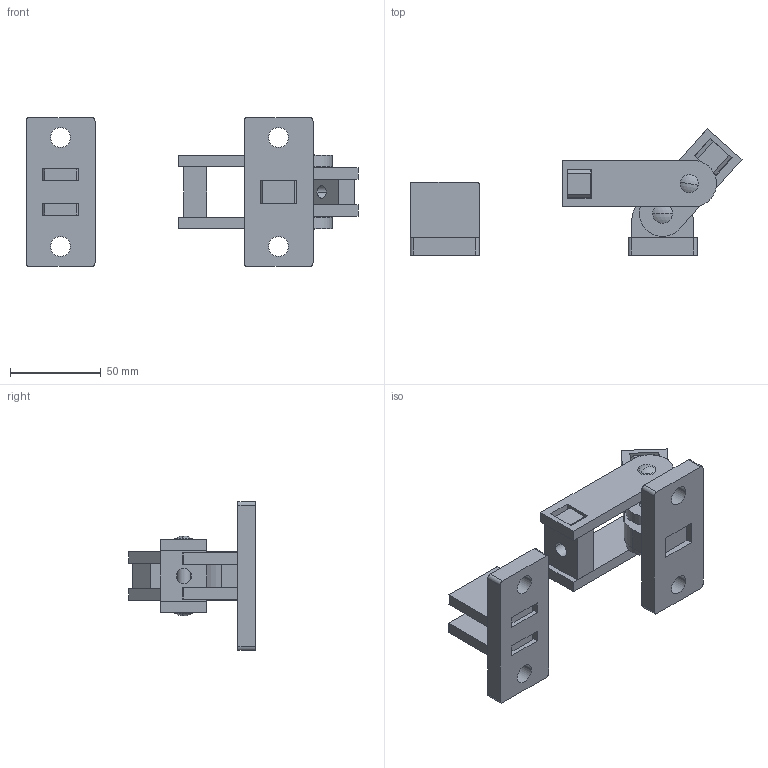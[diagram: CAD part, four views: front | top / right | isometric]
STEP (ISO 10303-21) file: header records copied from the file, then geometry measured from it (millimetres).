
FILE_DESCRIPTION (( 'STEP AP203' ), '1' );
FILE_NAME ('KFT-10.step', '2011-05-12T15:01:48', ( 'Usuario' ), ( '' ), 'SwSTEP 2.0', 'SolidWorks 2011', '' );
FILE_SCHEMA (( 'CONFIG_CONTROL_DESIGN' ));
Length unit declared in the file: millimetre
Products named in the file (11): 09.10001_Montagem; 03.10001; 15.10002; 02.10003; 02.10002; 02.10001; KFT-10; 16.20003_Remanchado; 16.20002_Remanchado; 09.10002_Montagem; 03.10002
Assembly tree (13 placements, depth 2):
  KFT-10
    03.10002  x2
    09.10002_Montagem
    16.20002_Remanchado
    16.20003_Remanchado
    03.10001  x2
    09.10001_Montagem
    02.10003
    02.10002  x2
    15.10002
    02.10001
Bounding box: 182.74 x 69.64 x 82 mm (x, y, z)
Volume: 136078.8 mm3; surface area: 56220.5 mm2
Topology: 13 solids, 13 shells, 197 faces, 499 edges, 334 vertices
Faces by surface type: plane 137, cylinder 52, sphere 8
Entity records: 5976 total; most frequent: DIRECTION 827, CARTESIAN_POINT 823, ORIENTED_EDGE 782, EDGE_CURVE 391, LINE 295, VECTOR 295, AXIS2_PLACEMENT_3D 266, VERTEX_POINT 262
